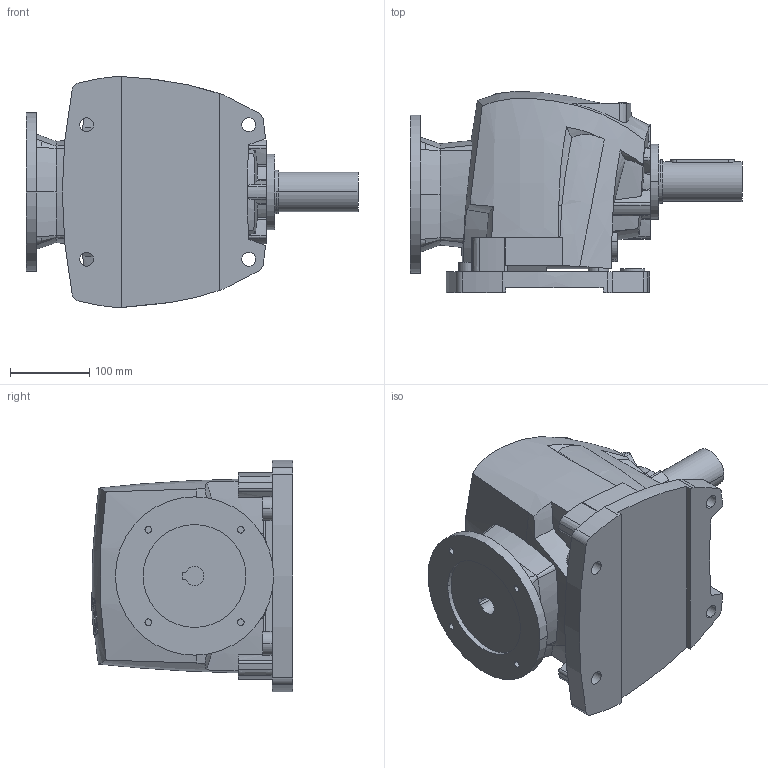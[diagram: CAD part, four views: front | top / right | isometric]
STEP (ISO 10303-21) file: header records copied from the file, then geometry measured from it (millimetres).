
FILE_DESCRIPTION((''),'2;1');
FILE_NAME('R40_SW_PAM90_D2','2013-11-28T',('Luca'),(''),'PRO/ENGINEER BY PARAMETRIC TECHNOLOGY CORPORATION, 2008230','PRO/ENGINEER BY PARAMETRIC TECHNOLOGY CORPORATION, 2008230','');
FILE_SCHEMA(('CONFIG_CONTROL_DESIGN'));
Length unit declared in the file: millimetre
Products named in the file (1): R40_SW_PAM90_D2
Bounding box: 419.5 x 254.38 x 292.31 mm (x, y, z)
Volume: 12476335.6 mm3; surface area: 511859.1 mm2
Topology: 1 solids, 5 shells, 469 faces, 1291 edges, 866 vertices
Faces by surface type: cylinder 164, plane 152, bspline 86, extrusion 39, cone 20, torus 8
Entity records: 19892 total; most frequent: CARTESIAN_POINT 8811, ORIENTED_EDGE 2578, DIRECTION 1809, EDGE_CURVE 1289, VERTEX_POINT 866, AXIS2_PLACEMENT_3D 614, VECTOR 581, LINE 542
